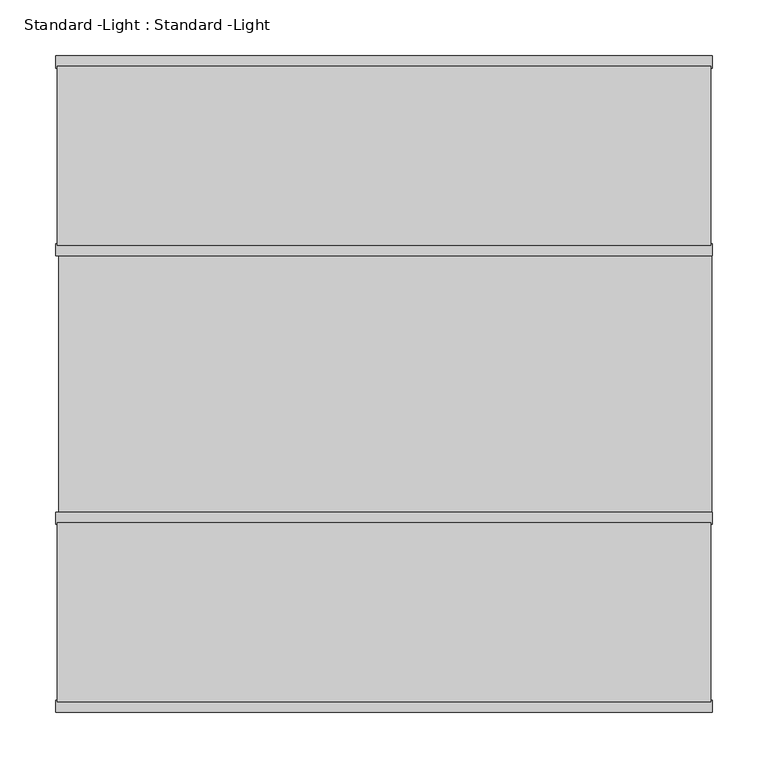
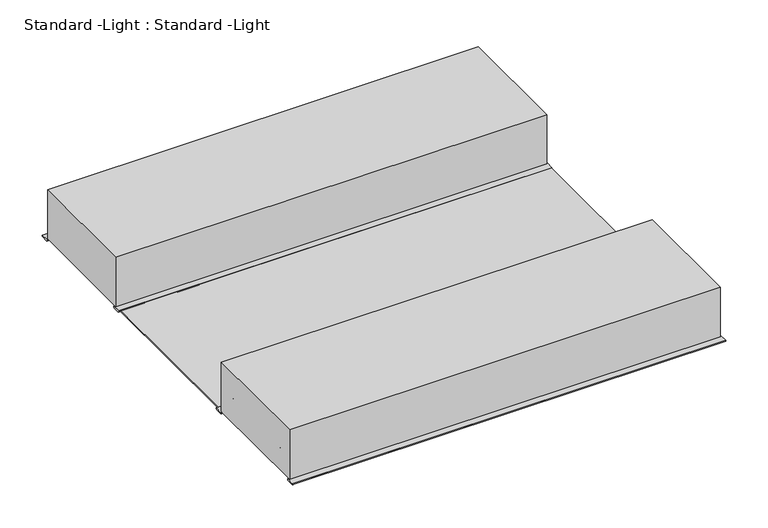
"""IFC4 building model written with IfcOpenShell, lengths in millimetres: light fixture geometry, Standard -Light : Standard -Light."""

from ifc_helpers import new_model, si_unit, frame, origin, place, context, project, spatial, polyline, outline, extrude, faceted_brep, source, transform, mapped, element, save


def standard_light_standard_light_0c722ef9(model_context):
    return source(origin(), model_context, "Body", "SolidModel", [
        extrude(outline(polyline([(283.210535, 4032.24823), (283.9942265, 4030.3707886), (283.9942265, 4005.6564331), (283.210535, 4003.7789917), (281.3330936, 4002.9998779), (128.1397057, 4002.9998779), (126.2647057, 4003.7789917), (125.4932213, 4005.6564331), (125.4932213, 4030.3707886), (126.2647057, 4032.24823), (128.1397057, 4033.0273437), (142.8516579, 4033.0273437), (144.7266579, 4032.3446655), (145.7349586, 4030.6143188), (146.5894508, 4025.7894897), (147.587986, 4024.0591431), (149.4654274, 4023.3764648), (260.0098515, 4023.3764648), (261.8872929, 4024.0591431), (262.8833866, 4025.7894897), (263.7403202, 4030.6143188), (264.748621, 4032.3446655), (266.623621, 4033.0273437), (281.3330936, 4033.0273437), (283.210535, 4032.24823)])), frame((-256.0024029, 0.0, 0.0), z_axis=(1.0, 0.0, 0.0), x_axis=(0.0, 1.0, 0.0)), (0.0, 0.0, 1.0), 1.0009568),
        extrude(outline(polyline([(283.210535, 4032.24823), (283.9942265, 4030.3707886), (283.9942265, 4005.6564331), (283.210535, 4003.7789917), (281.3330936, 4002.9998779), (128.1397057, 4002.9998779), (126.2647057, 4003.7789917), (125.4932213, 4005.6564331), (125.4932213, 4030.3707886), (126.2647057, 4032.24823), (128.1397057, 4033.0273437), (142.8516579, 4033.0273437), (144.7266579, 4032.3446655), (145.7349586, 4030.6143188), (146.5894508, 4025.7894897), (147.587986, 4024.0591431), (149.4654274, 4023.3764648), (260.0098515, 4023.3764648), (261.8872929, 4024.0591431), (262.8833866, 4025.7894897), (263.7403202, 4030.6143188), (264.748621, 4032.3446655), (266.623621, 4033.0273437), (281.3330936, 4033.0273437), (283.210535, 4032.24823)])), frame((-219.5024029, 0.0, 0.0), z_axis=(1.0, 0.0, 0.0), x_axis=(0.0, 1.0, 0.0)), (0.0, 0.0, 1.0), 1.0009568),
        extrude(outline(polyline([(283.210535, 4032.24823), (283.9942265, 4030.3707886), (283.9942265, 4005.6564331), (283.210535, 4003.7789917), (281.3330936, 4002.9998779), (128.1397057, 4002.9998779), (126.2647057, 4003.7789917), (125.4932213, 4005.6564331), (125.4932213, 4030.3707886), (126.2647057, 4032.24823), (128.1397057, 4033.0273437), (142.8516579, 4033.0273437), (144.7266579, 4032.3446655), (145.7349586, 4030.6143188), (146.5894508, 4025.7894897), (147.587986, 4024.0591431), (149.4654274, 4023.3764648), (260.0098515, 4023.3764648), (261.8872929, 4024.0591431), (262.8833866, 4025.7894897), (263.7403202, 4030.6143188), (264.748621, 4032.3446655), (266.623621, 4033.0273437), (281.3330936, 4033.0273437), (283.210535, 4032.24823)])), frame((-183.0024029, 0.0, 0.0), z_axis=(1.0, 0.0, 0.0), x_axis=(0.0, 1.0, 0.0)), (0.0, 0.0, 1.0), 1.0009568),
        extrude(outline(polyline([(283.210535, 4032.24823), (283.9942265, 4030.3707886), (283.9942265, 4005.6564331), (283.210535, 4003.7789917), (281.3330936, 4002.9998779), (128.1397057, 4002.9998779), (126.2647057, 4003.7789917), (125.4932213, 4005.6564331), (125.4932213, 4030.3707886), (126.2647057, 4032.24823), (128.1397057, 4033.0273437), (142.8516579, 4033.0273437), (144.7266579, 4032.3446655), (145.7349586, 4030.6143188), (146.5894508, 4025.7894897), (147.587986, 4024.0591431), (149.4654274, 4023.3764648), (260.0098515, 4023.3764648), (261.8872929, 4024.0591431), (262.8833866, 4025.7894897), (263.7403202, 4030.6143188), (264.748621, 4032.3446655), (266.623621, 4033.0273437), (281.3330936, 4033.0273437), (283.210535, 4032.24823)])), frame((-146.5024029, 0.0, 0.0), z_axis=(1.0, 0.0, 0.0), x_axis=(0.0, 1.0, 0.0)), (0.0, 0.0, 1.0), 1.0009568),
        extrude(outline(polyline([(283.210535, 4032.24823), (283.9942265, 4030.3707886), (283.9942265, 4005.6564331), (283.210535, 4003.7789917), (281.3330936, 4002.9998779), (128.1397057, 4002.9998779), (126.2647057, 4003.7789917), (125.4932213, 4005.6564331), (125.4932213, 4030.3707886), (126.2647057, 4032.24823), (128.1397057, 4033.0273437), (142.8516579, 4033.0273437), (144.7266579, 4032.3446655), (145.7349586, 4030.6143188), (146.5894508, 4025.7894897), (147.587986, 4024.0591431), (149.4654274, 4023.3764648), (260.0098515, 4023.3764648), (261.8872929, 4024.0591431), (262.8833866, 4025.7894897), (263.7403202, 4030.6143188), (264.748621, 4032.3446655), (266.623621, 4033.0273437), (281.3330936, 4033.0273437), (283.210535, 4032.24823)])), frame((-110.0024029, 0.0, 0.0), z_axis=(1.0, 0.0, 0.0), x_axis=(0.0, 1.0, 0.0)), (0.0, 0.0, 1.0), 1.0009568),
        extrude(outline(polyline([(283.210535, 4032.24823), (283.9942265, 4030.3707886), (283.9942265, 4005.6564331), (283.210535, 4003.7789917), (281.3330936, 4002.9998779), (128.1397057, 4002.9998779), (126.2647057, 4003.7789917), (125.4932213, 4005.6564331), (125.4932213, 4030.3707886), (126.2647057, 4032.24823), (128.1397057, 4033.0273437), (142.8516579, 4033.0273437), (144.7266579, 4032.3446655), (145.7349586, 4030.6143188), (146.5894508, 4025.7894897), (147.587986, 4024.0591431), (149.4654274, 4023.3764648), (260.0098515, 4023.3764648), (261.8872929, 4024.0591431), (262.8833866, 4025.7894897), (263.7403202, 4030.6143188), (264.748621, 4032.3446655), (266.623621, 4033.0273437), (281.3330936, 4033.0273437), (283.210535, 4032.24823)])), frame((-73.5024029, 0.0, 0.0), z_axis=(1.0, 0.0, 0.0), x_axis=(0.0, 1.0, 0.0)), (0.0, 0.0, 1.0), 1.0009568),
        extrude(outline(polyline([(283.210535, 4032.24823), (283.9942265, 4030.3707886), (283.9942265, 4005.6564331), (283.210535, 4003.7789917), (281.3330936, 4002.9998779), (128.1397057, 4002.9998779), (126.2647057, 4003.7789917), (125.4932213, 4005.6564331), (125.4932213, 4030.3707886), (126.2647057, 4032.24823), (128.1397057, 4033.0273437), (142.8516579, 4033.0273437), (144.7266579, 4032.3446655), (145.7349586, 4030.6143188), (146.5894508, 4025.7894897), (147.587986, 4024.0591431), (149.4654274, 4023.3764648), (260.0098515, 4023.3764648), (261.8872929, 4024.0591431), (262.8833866, 4025.7894897), (263.7403202, 4030.6143188), (264.748621, 4032.3446655), (266.623621, 4033.0273437), (281.3330936, 4033.0273437), (283.210535, 4032.24823)])), frame((-37.0024029, 0.0, 0.0), z_axis=(1.0, 0.0, 0.0), x_axis=(0.0, 1.0, 0.0)), (0.0, 0.0, 1.0), 1.0009568),
        extrude(outline(polyline([(283.210535, 4032.24823), (283.9942265, 4030.3707886), (283.9942265, 4005.6564331), (283.210535, 4003.7789917), (281.3330936, 4002.9998779), (128.1397057, 4002.9998779), (126.2647057, 4003.7789917), (125.4932213, 4005.6564331), (125.4932213, 4030.3707886), (126.2647057, 4032.24823), (128.1397057, 4033.0273437), (142.8516579, 4033.0273437), (144.7266579, 4032.3446655), (145.7349586, 4030.6143188), (146.5894508, 4025.7894897), (147.587986, 4024.0591431), (149.4654274, 4023.3764648), (260.0098515, 4023.3764648), (261.8872929, 4024.0591431), (262.8833866, 4025.7894897), (263.7403202, 4030.6143188), (264.748621, 4032.3446655), (266.623621, 4033.0273437), (281.3330936, 4033.0273437), (283.210535, 4032.24823)])), frame((-0.5024029, 0.0, 0.0), z_axis=(1.0, 0.0, 0.0), x_axis=(0.0, 1.0, 0.0)), (0.0, 0.0, 1.0), 1.0009568),
        extrude(outline(polyline([(283.210535, 4032.24823), (283.9942265, 4030.3707886), (283.9942265, 4005.6564331), (283.210535, 4003.7789917), (281.3330936, 4002.9998779), (128.1397057, 4002.9998779), (126.2647057, 4003.7789917), (125.4932213, 4005.6564331), (125.4932213, 4030.3707886), (126.2647057, 4032.24823), (128.1397057, 4033.0273437), (142.8516579, 4033.0273437), (144.7266579, 4032.3446655), (145.7349586, 4030.6143188), (146.5894508, 4025.7894897), (147.587986, 4024.0591431), (149.4654274, 4023.3764648), (260.0098515, 4023.3764648), (261.8872929, 4024.0591431), (262.8833866, 4025.7894897), (263.7403202, 4030.6143188), (264.748621, 4032.3446655), (266.623621, 4033.0273437), (281.3330936, 4033.0273437), (283.210535, 4032.24823)])), frame((35.9975971, 0.0, 0.0), z_axis=(1.0, 0.0, 0.0), x_axis=(0.0, 1.0, 0.0)), (0.0, 0.0, 1.0), 1.0009568),
        extrude(outline(polyline([(283.210535, 4032.24823), (283.9942265, 4030.3707886), (283.9942265, 4005.6564331), (283.210535, 4003.7789917), (281.3330936, 4002.9998779), (128.1397057, 4002.9998779), (126.2647057, 4003.7789917), (125.4932213, 4005.6564331), (125.4932213, 4030.3707886), (126.2647057, 4032.24823), (128.1397057, 4033.0273437), (142.8516579, 4033.0273437), (144.7266579, 4032.3446655), (145.7349586, 4030.6143188), (146.5894508, 4025.7894897), (147.587986, 4024.0591431), (149.4654274, 4023.3764648), (260.0098515, 4023.3764648), (261.8872929, 4024.0591431), (262.8833866, 4025.7894897), (263.7403202, 4030.6143188), (264.748621, 4032.3446655), (266.623621, 4033.0273437), (281.3330936, 4033.0273437), (283.210535, 4032.24823)])), frame((72.4975971, 0.0, 0.0), z_axis=(1.0, 0.0, 0.0), x_axis=(0.0, 1.0, 0.0)), (0.0, 0.0, 1.0), 1.0009568),
        extrude(outline(polyline([(283.210535, 4032.24823), (283.9942265, 4030.3707886), (283.9942265, 4005.6564331), (283.210535, 4003.7789917), (281.3330936, 4002.9998779), (128.1397057, 4002.9998779), (126.2647057, 4003.7789917), (125.4932213, 4005.6564331), (125.4932213, 4030.3707886), (126.2647057, 4032.24823), (128.1397057, 4033.0273437), (142.8516579, 4033.0273437), (144.7266579, 4032.3446655), (145.7349586, 4030.6143188), (146.5894508, 4025.7894897), (147.587986, 4024.0591431), (149.4654274, 4023.3764648), (260.0098515, 4023.3764648), (261.8872929, 4024.0591431), (262.8833866, 4025.7894897), (263.7403202, 4030.6143188), (264.748621, 4032.3446655), (266.623621, 4033.0273437), (281.3330936, 4033.0273437), (283.210535, 4032.24823)])), frame((108.9975971, 0.0, 0.0), z_axis=(1.0, 0.0, 0.0), x_axis=(0.0, 1.0, 0.0)), (0.0, 0.0, 1.0), 1.0009568),
        extrude(outline(polyline([(283.210535, 4032.24823), (283.9942265, 4030.3707886), (283.9942265, 4005.6564331), (283.210535, 4003.7789917), (281.3330936, 4002.9998779), (128.1397057, 4002.9998779), (126.2647057, 4003.7789917), (125.4932213, 4005.6564331), (125.4932213, 4030.3707886), (126.2647057, 4032.24823), (128.1397057, 4033.0273437), (142.8516579, 4033.0273437), (144.7266579, 4032.3446655), (145.7349586, 4030.6143188), (146.5894508, 4025.7894897), (147.587986, 4024.0591431), (149.4654274, 4023.3764648), (260.0098515, 4023.3764648), (261.8872929, 4024.0591431), (262.8833866, 4025.7894897), (263.7403202, 4030.6143188), (264.748621, 4032.3446655), (266.623621, 4033.0273437), (281.3330936, 4033.0273437), (283.210535, 4032.24823)])), frame((145.4975971, 0.0, 0.0), z_axis=(1.0, 0.0, 0.0), x_axis=(0.0, 1.0, 0.0)), (0.0, 0.0, 1.0), 1.0009568),
        extrude(outline(polyline([(283.210535, 4032.24823), (283.9942265, 4030.3707886), (283.9942265, 4005.6564331), (283.210535, 4003.7789917), (281.3330936, 4002.9998779), (128.1397057, 4002.9998779), (126.2647057, 4003.7789917), (125.4932213, 4005.6564331), (125.4932213, 4030.3707886), (126.2647057, 4032.24823), (128.1397057, 4033.0273437), (142.8516579, 4033.0273437), (144.7266579, 4032.3446655), (145.7349586, 4030.6143188), (146.5894508, 4025.7894897), (147.587986, 4024.0591431), (149.4654274, 4023.3764648), (260.0098515, 4023.3764648), (261.8872929, 4024.0591431), (262.8833866, 4025.7894897), (263.7403202, 4030.6143188), (264.748621, 4032.3446655), (266.623621, 4033.0273437), (281.3330936, 4033.0273437), (283.210535, 4032.24823)])), frame((181.9975971, 0.0, 0.0), z_axis=(1.0, 0.0, 0.0), x_axis=(0.0, 1.0, 0.0)), (0.0, 0.0, 1.0), 1.0009568),
        extrude(outline(polyline([(283.210535, 4032.24823), (283.9942265, 4030.3707886), (283.9942265, 4005.6564331), (283.210535, 4003.7789917), (281.3330936, 4002.9998779), (128.1397057, 4002.9998779), (126.2647057, 4003.7789917), (125.4932213, 4005.6564331), (125.4932213, 4030.3707886), (126.2647057, 4032.24823), (128.1397057, 4033.0273437), (142.8516579, 4033.0273437), (144.7266579, 4032.3446655), (145.7349586, 4030.6143188), (146.5894508, 4025.7894897), (147.587986, 4024.0591431), (149.4654274, 4023.3764648), (260.0098515, 4023.3764648), (261.8872929, 4024.0591431), (262.8833866, 4025.7894897), (263.7403202, 4030.6143188), (264.748621, 4032.3446655), (266.623621, 4033.0273437), (281.3330936, 4033.0273437), (283.210535, 4032.24823)])), frame((218.4975971, 0.0, 0.0), z_axis=(1.0, 0.0, 0.0), x_axis=(0.0, 1.0, 0.0)), (0.0, 0.0, 1.0), 1.0009568),
        faceted_brep([(293.0, 124.5002403, 4071.0), (293.0, 124.5002403, 4000.0), (293.0, 285.0012169, 4000.0), (293.0, 285.0012169, 4071.0), (-293.0, 124.5002403, 4071.0), (-293.0, 285.0012169, 4071.0), (-293.0, 285.0012169, 4000.0), (-293.0, 124.5002403, 4000.0), (292.0, 125.5003166, 4000.0), (292.0, 283.9987755, 4000.0), (-292.0, 283.9987755, 4000.0), (-292.0, 125.5003166, 4000.0), (292.0, 125.5003166, 4070.0), (292.0, 283.9987755, 4070.0), (-292.0, 283.9987755, 4070.0), (-292.0, 125.5003166, 4070.0)], [[[0, 1, 2, 3]], [[4, 5, 6, 7]], [[1, 0, 4, 7]], [[2, 1, 7, 6], [8, 9, 10, 11]], [[3, 2, 6, 5]], [[0, 3, 5, 4]], [[12, 13, 9, 8]], [[14, 15, 11, 10]], [[13, 12, 15, 14]], [[15, 12, 8, 11]], [[13, 14, 10, 9]]]),
        extrude(outline(polyline([(283.210535, 4032.24823), (283.9942265, 4030.3707886), (283.9942265, 4005.6564331), (283.210535, 4003.7789917), (281.3330936, 4002.9998779), (128.1397057, 4002.9998779), (126.2647057, 4003.7789917), (125.4932213, 4005.6564331), (125.4932213, 4030.3707886), (126.2647057, 4032.24823), (128.1397057, 4033.0273437), (142.8516579, 4033.0273437), (144.7266579, 4032.3446655), (145.7349586, 4030.6143188), (146.5894508, 4025.7894897), (147.587986, 4024.0591431), (149.4654274, 4023.3764648), (260.0098515, 4023.3764648), (261.8872929, 4024.0591431), (262.8833866, 4025.7894897), (263.7403202, 4030.6143188), (264.748621, 4032.3446655), (266.623621, 4033.0273437), (281.3330936, 4033.0273437), (283.210535, 4032.24823)])), frame((254.9975971, 0.0, 0.0), z_axis=(1.0, 0.0, 0.0), x_axis=(0.0, 1.0, 0.0)), (0.0, 0.0, 1.0), 1.0009568),
        extrude(outline(polyline([(261.869888, 4030.6146431), (234.9216652, 4057.1105957), (174.5798683, 4057.1105957), (147.6365089, 4030.614624), (146.9333839, 4031.3275146), (174.2283058, 4057.9669189), (235.2756691, 4057.9669189), (262.5705715, 4031.3275337), (261.869888, 4030.6146431)])), frame((-292.0, 0.0, 0.0), z_axis=(1.0, 0.0, 0.0), x_axis=(0.0, 1.0, 0.0)), (0.0, 0.0, 1.0), 584.0),
        extrude(outline(polyline([(201.1330945, 4054.4276364), (204.7507095, 4055.0006104), (208.3683246, 4054.4276364), (211.6318222, 4052.7648013), (214.2217486, 4050.1748749), (215.8845837, 4046.9113772), (216.4575577, 4043.2937622), (215.8845837, 4039.6761472), (214.2217486, 4036.4126495), (211.6318222, 4033.8227231), (208.3683246, 4032.159888), (204.7507095, 4031.5869141), (201.1330945, 4032.159888), (197.8695968, 4033.8227231), (195.2796704, 4036.4126495), (193.6168353, 4039.6761472), (193.0438614, 4043.2937622), (193.6168353, 4046.9113772), (195.2796704, 4050.1748749), (197.8695968, 4052.7648013), (201.1330945, 4054.4276364)])), frame((-292.0019913, 0.0, 0.0), z_axis=(1.0, 0.0, 0.0), x_axis=(0.0, 1.0, 0.0)), (0.0, 0.0, 1.0), 583.9990234),
        extrude(outline(polyline([(283.4983826, 4000.0), (294.4969177, 4000.0), (294.4969177, 3998.500061), (293.8995579, 3997.900139), (284.0986706, 3997.900139), (283.4983826, 3998.500061), (283.4983826, 4000.0)])), frame((-294.5, 0.0, 0.0), z_axis=(1.0, 0.0, 0.0), x_axis=(0.0, 1.0, 0.0)), (0.0, 0.0, 1.0), 588.9994926),
        extrude(outline(polyline([(114.999733, 4000.0), (125.9982681, 4000.0), (125.9982681, 3998.500061), (125.4009083, 3997.900139), (115.600021, 3997.900139), (114.999733, 3998.500061), (114.999733, 4000.0)])), frame((-294.5, 0.0, 0.0), z_axis=(1.0, 0.0, 0.0), x_axis=(0.0, 1.0, 0.0)), (0.0, 0.0, 1.0), 588.9994926),
        extrude(outline(polyline([(-126.286459, 4032.24823), (-125.5027676, 4030.3707886), (-125.5027676, 4005.6564331), (-126.286459, 4003.7789917), (-128.1639004, 4002.9998779), (-281.3572884, 4002.9998779), (-283.2322884, 4003.7789917), (-284.0037727, 4005.6564331), (-284.0037727, 4030.3707886), (-283.2322884, 4032.24823), (-281.3572884, 4033.0273437), (-266.6453362, 4033.0273437), (-264.7703362, 4032.3446655), (-263.7620354, 4030.6143188), (-262.9075432, 4025.7894897), (-261.909008, 4024.0591431), (-260.0315666, 4023.3764648), (-149.4871426, 4023.3764648), (-147.6097012, 4024.0591431), (-146.6136074, 4025.7894897), (-145.7566738, 4030.6143188), (-144.748373, 4032.3446655), (-142.873373, 4033.0273437), (-128.1639004, 4033.0273437), (-126.286459, 4032.24823)])), frame((-256.0024029, 0.0, 0.0), z_axis=(1.0, 0.0, 0.0), x_axis=(0.0, 1.0, 0.0)), (0.0, 0.0, 1.0), 1.0009568),
        extrude(outline(polyline([(-126.286459, 4032.24823), (-125.5027676, 4030.3707886), (-125.5027676, 4005.6564331), (-126.286459, 4003.7789917), (-128.1639004, 4002.9998779), (-281.3572884, 4002.9998779), (-283.2322884, 4003.7789917), (-284.0037727, 4005.6564331), (-284.0037727, 4030.3707886), (-283.2322884, 4032.24823), (-281.3572884, 4033.0273437), (-266.6453362, 4033.0273437), (-264.7703362, 4032.3446655), (-263.7620354, 4030.6143188), (-262.9075432, 4025.7894897), (-261.909008, 4024.0591431), (-260.0315666, 4023.3764648), (-149.4871426, 4023.3764648), (-147.6097012, 4024.0591431), (-146.6136074, 4025.7894897), (-145.7566738, 4030.6143188), (-144.748373, 4032.3446655), (-142.873373, 4033.0273437), (-128.1639004, 4033.0273437), (-126.286459, 4032.24823)])), frame((-219.5024029, 0.0, 0.0), z_axis=(1.0, 0.0, 0.0), x_axis=(0.0, 1.0, 0.0)), (0.0, 0.0, 1.0), 1.0009568),
        extrude(outline(polyline([(-126.286459, 4032.24823), (-125.5027676, 4030.3707886), (-125.5027676, 4005.6564331), (-126.286459, 4003.7789917), (-128.1639004, 4002.9998779), (-281.3572884, 4002.9998779), (-283.2322884, 4003.7789917), (-284.0037727, 4005.6564331), (-284.0037727, 4030.3707886), (-283.2322884, 4032.24823), (-281.3572884, 4033.0273437), (-266.6453362, 4033.0273437), (-264.7703362, 4032.3446655), (-263.7620354, 4030.6143188), (-262.9075432, 4025.7894897), (-261.909008, 4024.0591431), (-260.0315666, 4023.3764648), (-149.4871426, 4023.3764648), (-147.6097012, 4024.0591431), (-146.6136074, 4025.7894897), (-145.7566738, 4030.6143188), (-144.748373, 4032.3446655), (-142.873373, 4033.0273437), (-128.1639004, 4033.0273437), (-126.286459, 4032.24823)])), frame((-183.0024029, 0.0, 0.0), z_axis=(1.0, 0.0, 0.0), x_axis=(0.0, 1.0, 0.0)), (0.0, 0.0, 1.0), 1.0009568),
        extrude(outline(polyline([(-126.286459, 4032.24823), (-125.5027676, 4030.3707886), (-125.5027676, 4005.6564331), (-126.286459, 4003.7789917), (-128.1639004, 4002.9998779), (-281.3572884, 4002.9998779), (-283.2322884, 4003.7789917), (-284.0037727, 4005.6564331), (-284.0037727, 4030.3707886), (-283.2322884, 4032.24823), (-281.3572884, 4033.0273437), (-266.6453362, 4033.0273437), (-264.7703362, 4032.3446655), (-263.7620354, 4030.6143188), (-262.9075432, 4025.7894897), (-261.909008, 4024.0591431), (-260.0315666, 4023.3764648), (-149.4871426, 4023.3764648), (-147.6097012, 4024.0591431), (-146.6136074, 4025.7894897), (-145.7566738, 4030.6143188), (-144.748373, 4032.3446655), (-142.873373, 4033.0273437), (-128.1639004, 4033.0273437), (-126.286459, 4032.24823)])), frame((-146.5024029, 0.0, 0.0), z_axis=(1.0, 0.0, 0.0), x_axis=(0.0, 1.0, 0.0)), (0.0, 0.0, 1.0), 1.0009568),
        extrude(outline(polyline([(-126.286459, 4032.24823), (-125.5027676, 4030.3707886), (-125.5027676, 4005.6564331), (-126.286459, 4003.7789917), (-128.1639004, 4002.9998779), (-281.3572884, 4002.9998779), (-283.2322884, 4003.7789917), (-284.0037727, 4005.6564331), (-284.0037727, 4030.3707886), (-283.2322884, 4032.24823), (-281.3572884, 4033.0273437), (-266.6453362, 4033.0273437), (-264.7703362, 4032.3446655), (-263.7620354, 4030.6143188), (-262.9075432, 4025.7894897), (-261.909008, 4024.0591431), (-260.0315666, 4023.3764648), (-149.4871426, 4023.3764648), (-147.6097012, 4024.0591431), (-146.6136074, 4025.7894897), (-145.7566738, 4030.6143188), (-144.748373, 4032.3446655), (-142.873373, 4033.0273437), (-128.1639004, 4033.0273437), (-126.286459, 4032.24823)])), frame((-110.0024029, 0.0, 0.0), z_axis=(1.0, 0.0, 0.0), x_axis=(0.0, 1.0, 0.0)), (0.0, 0.0, 1.0), 1.0009568),
        extrude(outline(polyline([(-126.286459, 4032.24823), (-125.5027676, 4030.3707886), (-125.5027676, 4005.6564331), (-126.286459, 4003.7789917), (-128.1639004, 4002.9998779), (-281.3572884, 4002.9998779), (-283.2322884, 4003.7789917), (-284.0037727, 4005.6564331), (-284.0037727, 4030.3707886), (-283.2322884, 4032.24823), (-281.3572884, 4033.0273437), (-266.6453362, 4033.0273437), (-264.7703362, 4032.3446655), (-263.7620354, 4030.6143188), (-262.9075432, 4025.7894897), (-261.909008, 4024.0591431), (-260.0315666, 4023.3764648), (-149.4871426, 4023.3764648), (-147.6097012, 4024.0591431), (-146.6136074, 4025.7894897), (-145.7566738, 4030.6143188), (-144.748373, 4032.3446655), (-142.873373, 4033.0273437), (-128.1639004, 4033.0273437), (-126.286459, 4032.24823)])), frame((-73.5024029, 0.0, 0.0), z_axis=(1.0, 0.0, 0.0), x_axis=(0.0, 1.0, 0.0)), (0.0, 0.0, 1.0), 1.0009568),
        extrude(outline(polyline([(-126.286459, 4032.24823), (-125.5027676, 4030.3707886), (-125.5027676, 4005.6564331), (-126.286459, 4003.7789917), (-128.1639004, 4002.9998779), (-281.3572884, 4002.9998779), (-283.2322884, 4003.7789917), (-284.0037727, 4005.6564331), (-284.0037727, 4030.3707886), (-283.2322884, 4032.24823), (-281.3572884, 4033.0273437), (-266.6453362, 4033.0273437), (-264.7703362, 4032.3446655), (-263.7620354, 4030.6143188), (-262.9075432, 4025.7894897), (-261.909008, 4024.0591431), (-260.0315666, 4023.3764648), (-149.4871426, 4023.3764648), (-147.6097012, 4024.0591431), (-146.6136074, 4025.7894897), (-145.7566738, 4030.6143188), (-144.748373, 4032.3446655), (-142.873373, 4033.0273437), (-128.1639004, 4033.0273437), (-126.286459, 4032.24823)])), frame((-37.0024029, 0.0, 0.0), z_axis=(1.0, 0.0, 0.0), x_axis=(0.0, 1.0, 0.0)), (0.0, 0.0, 1.0), 1.0009568),
        extrude(outline(polyline([(-126.286459, 4032.24823), (-125.5027676, 4030.3707886), (-125.5027676, 4005.6564331), (-126.286459, 4003.7789917), (-128.1639004, 4002.9998779), (-281.3572884, 4002.9998779), (-283.2322884, 4003.7789917), (-284.0037727, 4005.6564331), (-284.0037727, 4030.3707886), (-283.2322884, 4032.24823), (-281.3572884, 4033.0273437), (-266.6453362, 4033.0273437), (-264.7703362, 4032.3446655), (-263.7620354, 4030.6143188), (-262.9075432, 4025.7894897), (-261.909008, 4024.0591431), (-260.0315666, 4023.3764648), (-149.4871426, 4023.3764648), (-147.6097012, 4024.0591431), (-146.6136074, 4025.7894897), (-145.7566738, 4030.6143188), (-144.748373, 4032.3446655), (-142.873373, 4033.0273437), (-128.1639004, 4033.0273437), (-126.286459, 4032.24823)])), frame((-0.5024029, 0.0, 0.0), z_axis=(1.0, 0.0, 0.0), x_axis=(0.0, 1.0, 0.0)), (0.0, 0.0, 1.0), 1.0009568),
        extrude(outline(polyline([(-126.286459, 4032.24823), (-125.5027676, 4030.3707886), (-125.5027676, 4005.6564331), (-126.286459, 4003.7789917), (-128.1639004, 4002.9998779), (-281.3572884, 4002.9998779), (-283.2322884, 4003.7789917), (-284.0037727, 4005.6564331), (-284.0037727, 4030.3707886), (-283.2322884, 4032.24823), (-281.3572884, 4033.0273437), (-266.6453362, 4033.0273437), (-264.7703362, 4032.3446655), (-263.7620354, 4030.6143188), (-262.9075432, 4025.7894897), (-261.909008, 4024.0591431), (-260.0315666, 4023.3764648), (-149.4871426, 4023.3764648), (-147.6097012, 4024.0591431), (-146.6136074, 4025.7894897), (-145.7566738, 4030.6143188), (-144.748373, 4032.3446655), (-142.873373, 4033.0273437), (-128.1639004, 4033.0273437), (-126.286459, 4032.24823)])), frame((35.9975971, 0.0, 0.0), z_axis=(1.0, 0.0, 0.0), x_axis=(0.0, 1.0, 0.0)), (0.0, 0.0, 1.0), 1.0009568),
        extrude(outline(polyline([(-126.286459, 4032.24823), (-125.5027676, 4030.3707886), (-125.5027676, 4005.6564331), (-126.286459, 4003.7789917), (-128.1639004, 4002.9998779), (-281.3572884, 4002.9998779), (-283.2322884, 4003.7789917), (-284.0037727, 4005.6564331), (-284.0037727, 4030.3707886), (-283.2322884, 4032.24823), (-281.3572884, 4033.0273437), (-266.6453362, 4033.0273437), (-264.7703362, 4032.3446655), (-263.7620354, 4030.6143188), (-262.9075432, 4025.7894897), (-261.909008, 4024.0591431), (-260.0315666, 4023.3764648), (-149.4871426, 4023.3764648), (-147.6097012, 4024.0591431), (-146.6136074, 4025.7894897), (-145.7566738, 4030.6143188), (-144.748373, 4032.3446655), (-142.873373, 4033.0273437), (-128.1639004, 4033.0273437), (-126.286459, 4032.24823)])), frame((72.4975971, 0.0, 0.0), z_axis=(1.0, 0.0, 0.0), x_axis=(0.0, 1.0, 0.0)), (0.0, 0.0, 1.0), 1.0009568),
        extrude(outline(polyline([(-126.286459, 4032.24823), (-125.5027676, 4030.3707886), (-125.5027676, 4005.6564331), (-126.286459, 4003.7789917), (-128.1639004, 4002.9998779), (-281.3572884, 4002.9998779), (-283.2322884, 4003.7789917), (-284.0037727, 4005.6564331), (-284.0037727, 4030.3707886), (-283.2322884, 4032.24823), (-281.3572884, 4033.0273437), (-266.6453362, 4033.0273437), (-264.7703362, 4032.3446655), (-263.7620354, 4030.6143188), (-262.9075432, 4025.7894897), (-261.909008, 4024.0591431), (-260.0315666, 4023.3764648), (-149.4871426, 4023.3764648), (-147.6097012, 4024.0591431), (-146.6136074, 4025.7894897), (-145.7566738, 4030.6143188), (-144.748373, 4032.3446655), (-142.873373, 4033.0273437), (-128.1639004, 4033.0273437), (-126.286459, 4032.24823)])), frame((108.9975971, 0.0, 0.0), z_axis=(1.0, 0.0, 0.0), x_axis=(0.0, 1.0, 0.0)), (0.0, 0.0, 1.0), 1.0009568),
        extrude(outline(polyline([(-126.286459, 4032.24823), (-125.5027676, 4030.3707886), (-125.5027676, 4005.6564331), (-126.286459, 4003.7789917), (-128.1639004, 4002.9998779), (-281.3572884, 4002.9998779), (-283.2322884, 4003.7789917), (-284.0037727, 4005.6564331), (-284.0037727, 4030.3707886), (-283.2322884, 4032.24823), (-281.3572884, 4033.0273437), (-266.6453362, 4033.0273437), (-264.7703362, 4032.3446655), (-263.7620354, 4030.6143188), (-262.9075432, 4025.7894897), (-261.909008, 4024.0591431), (-260.0315666, 4023.3764648), (-149.4871426, 4023.3764648), (-147.6097012, 4024.0591431), (-146.6136074, 4025.7894897), (-145.7566738, 4030.6143188), (-144.748373, 4032.3446655), (-142.873373, 4033.0273437), (-128.1639004, 4033.0273437), (-126.286459, 4032.24823)])), frame((145.4975971, 0.0, 0.0), z_axis=(1.0, 0.0, 0.0), x_axis=(0.0, 1.0, 0.0)), (0.0, 0.0, 1.0), 1.0009568),
        extrude(outline(polyline([(-126.286459, 4032.24823), (-125.5027676, 4030.3707886), (-125.5027676, 4005.6564331), (-126.286459, 4003.7789917), (-128.1639004, 4002.9998779), (-281.3572884, 4002.9998779), (-283.2322884, 4003.7789917), (-284.0037727, 4005.6564331), (-284.0037727, 4030.3707886), (-283.2322884, 4032.24823), (-281.3572884, 4033.0273437), (-266.6453362, 4033.0273437), (-264.7703362, 4032.3446655), (-263.7620354, 4030.6143188), (-262.9075432, 4025.7894897), (-261.909008, 4024.0591431), (-260.0315666, 4023.3764648), (-149.4871426, 4023.3764648), (-147.6097012, 4024.0591431), (-146.6136074, 4025.7894897), (-145.7566738, 4030.6143188), (-144.748373, 4032.3446655), (-142.873373, 4033.0273437), (-128.1639004, 4033.0273437), (-126.286459, 4032.24823)])), frame((181.9975971, 0.0, 0.0), z_axis=(1.0, 0.0, 0.0), x_axis=(0.0, 1.0, 0.0)), (0.0, 0.0, 1.0), 1.0009568),
        extrude(outline(polyline([(-126.286459, 4032.24823), (-125.5027676, 4030.3707886), (-125.5027676, 4005.6564331), (-126.286459, 4003.7789917), (-128.1639004, 4002.9998779), (-281.3572884, 4002.9998779), (-283.2322884, 4003.7789917), (-284.0037727, 4005.6564331), (-284.0037727, 4030.3707886), (-283.2322884, 4032.24823), (-281.3572884, 4033.0273437), (-266.6453362, 4033.0273437), (-264.7703362, 4032.3446655), (-263.7620354, 4030.6143188), (-262.9075432, 4025.7894897), (-261.909008, 4024.0591431), (-260.0315666, 4023.3764648), (-149.4871426, 4023.3764648), (-147.6097012, 4024.0591431), (-146.6136074, 4025.7894897), (-145.7566738, 4030.6143188), (-144.748373, 4032.3446655), (-142.873373, 4033.0273437), (-128.1639004, 4033.0273437), (-126.286459, 4032.24823)])), frame((218.4975971, 0.0, 0.0), z_axis=(1.0, 0.0, 0.0), x_axis=(0.0, 1.0, 0.0)), (0.0, 0.0, 1.0), 1.0009568),
        faceted_brep([(293.0, -284.9967537, 4071.0), (293.0, -284.9967537, 4000.0), (293.0, -124.4957771, 4000.0), (293.0, -124.4957771, 4071.0), (-293.0, -284.9967537, 4071.0), (-293.0, -124.4957771, 4071.0), (-293.0, -124.4957771, 4000.0), (-293.0, -284.9967537, 4000.0), (292.0, -283.9966774, 4000.0), (292.0, -125.4982185, 4000.0), (-292.0, -125.4982185, 4000.0), (-292.0, -283.9966774, 4000.0), (292.0, -283.9966774, 4070.0), (292.0, -125.4982185, 4070.0), (-292.0, -125.4982185, 4070.0), (-292.0, -283.9966774, 4070.0)], [[[0, 1, 2, 3]], [[4, 5, 6, 7]], [[1, 0, 4, 7]], [[2, 1, 7, 6], [8, 9, 10, 11]], [[3, 2, 6, 5]], [[0, 3, 5, 4]], [[12, 13, 9, 8]], [[14, 15, 11, 10]], [[13, 12, 15, 14]], [[15, 12, 8, 11]], [[13, 14, 10, 9]]]),
        extrude(outline(polyline([(-126.286459, 4032.24823), (-125.5027676, 4030.3707886), (-125.5027676, 4005.6564331), (-126.286459, 4003.7789917), (-128.1639004, 4002.9998779), (-281.3572884, 4002.9998779), (-283.2322884, 4003.7789917), (-284.0037727, 4005.6564331), (-284.0037727, 4030.3707886), (-283.2322884, 4032.24823), (-281.3572884, 4033.0273437), (-266.6453362, 4033.0273437), (-264.7703362, 4032.3446655), (-263.7620354, 4030.6143188), (-262.9075432, 4025.7894897), (-261.909008, 4024.0591431), (-260.0315666, 4023.3764648), (-149.4871426, 4023.3764648), (-147.6097012, 4024.0591431), (-146.6136074, 4025.7894897), (-145.7566738, 4030.6143188), (-144.748373, 4032.3446655), (-142.873373, 4033.0273437), (-128.1639004, 4033.0273437), (-126.286459, 4032.24823)])), frame((254.9975971, 0.0, 0.0), z_axis=(1.0, 0.0, 0.0), x_axis=(0.0, 1.0, 0.0)), (0.0, 0.0, 1.0), 1.0009568),
        extrude(outline(polyline([(-147.627106, 4030.6146431), (-174.5753288, 4057.1105957), (-234.9171257, 4057.1105957), (-261.8604851, 4030.614624), (-262.5636101, 4031.3275146), (-235.2686882, 4057.9669189), (-174.2213249, 4057.9669189), (-146.9264225, 4031.3275337), (-147.627106, 4030.6146431)])), frame((-292.0, 0.0, 0.0), z_axis=(1.0, 0.0, 0.0), x_axis=(0.0, 1.0, 0.0)), (0.0, 0.0, 1.0), 584.0),
        extrude(outline(polyline([(-208.3638995, 4054.4276364), (-204.7462845, 4055.0006104), (-201.1286695, 4054.4276364), (-197.8651718, 4052.7648013), (-195.2752454, 4050.1748749), (-193.6124103, 4046.9113772), (-193.0394363, 4043.2937622), (-193.6124103, 4039.6761472), (-195.2752454, 4036.4126495), (-197.8651718, 4033.8227231), (-201.1286695, 4032.159888), (-204.7462845, 4031.5869141), (-208.3638995, 4032.159888), (-211.6273972, 4033.8227231), (-214.2173236, 4036.4126495), (-215.8801587, 4039.6761472), (-216.4531326, 4043.2937622), (-215.8801587, 4046.9113772), (-214.2173236, 4050.1748749), (-211.6273972, 4052.7648013), (-208.3638995, 4054.4276364)])), frame((-292.0019913, 0.0, 0.0), z_axis=(1.0, 0.0, 0.0), x_axis=(0.0, 1.0, 0.0)), (0.0, 0.0, 1.0), 583.9990234),
        extrude(outline(polyline([(-125.9986115, 4000.0), (-115.0000763, 4000.0), (-115.0000763, 3998.500061), (-115.5974361, 3997.900139), (-125.3983234, 3997.900139), (-125.9986115, 3998.500061), (-125.9986115, 4000.0)])), frame((-294.5, 0.0, 0.0), z_axis=(1.0, 0.0, 0.0), x_axis=(0.0, 1.0, 0.0)), (0.0, 0.0, 1.0), 588.9994926),
        extrude(outline(polyline([(-294.497261, 4000.0), (-283.4987259, 4000.0), (-283.4987259, 3998.500061), (-284.0960857, 3997.900139), (-293.896973, 3997.900139), (-294.497261, 3998.500061), (-294.497261, 4000.0)])), frame((-294.5, 0.0, 0.0), z_axis=(1.0, 0.0, 0.0), x_axis=(0.0, 1.0, 0.0)), (0.0, 0.0, 1.0), 588.9994926),
        extrude(outline(polyline([(114.999733, 4000.0), (114.999733, 3999.1568911), (114.3422478, 3998.696515), (-114.3425911, 3998.696515), (-115.0000763, 3999.1568911), (-115.0000763, 4000.0), (114.999733, 4000.0)])), frame((-292.0, 0.0, 0.0), z_axis=(1.0, 0.0, 0.0), x_axis=(0.0, 1.0, 0.0)), (0.0, 0.0, 1.0), 585.9990234),
    ])


if __name__ == "__main__":
    model = new_model("IFC4")
    model_context = context("Model", 3, world=origin())
    ifc_project = project(units=[si_unit("LENGTHUNIT", "METRE", prefix="MILLI")], contexts=[model_context])
    site = spatial("IfcSite", under=ifc_project)
    building = spatial("IfcBuilding", under=site)
    placement = place(None, origin())
    standard_light_standard_light_shape = standard_light_standard_light_0c722ef9(model_context)
    element("IfcLightFixture", 1, ObjectType="Standard -Light : Standard -Light", at=placement, inside=building, context=model_context, shape_type="MappedRepresentation", body=[
        mapped(standard_light_standard_light_shape, transform((0.0, 0.0, 0.0), x_axis=(1.0, 0.0, 0.0), y_axis=(0.0, 1.0, 0.0), z_axis=(0.0, 0.0, 1.0))),
    ])
    save(model, "model.ifc")
